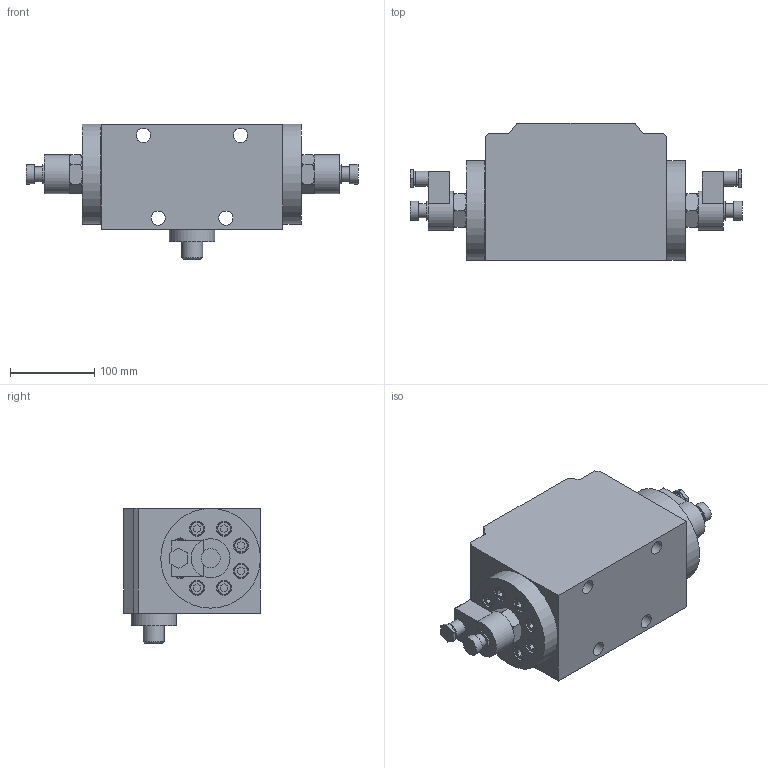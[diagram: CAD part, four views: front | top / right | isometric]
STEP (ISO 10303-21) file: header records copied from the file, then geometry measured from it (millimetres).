
FILE_DESCRIPTION(/* description */ (''),/* implementation_level */ '2;1');
FILE_NAME(/* name */ '数字4.prt.stp',/* time_stamp */ '2023-05-05T14:01:25+08:00',/* author */ (''),/* organization */ (''),/* preprocessor_version */ 'ST-DEVELOPER v16.7',/* originating_system */ 'SIEMENS PLM Software NX 12.0',/* authorisation */ '');
FILE_SCHEMA (('AUTOMOTIVE_DESIGN { 1 0 10303 214 3 1 1 1 }'));
Length unit declared in the file: millimetre
Products named in the file (1): 数字4
Bounding box: 393.03 x 162 x 160 mm (x, y, z)
Volume: 4840712.8 mm3; surface area: 407223 mm2
Topology: 51 solids, 51 shells, 797 faces, 1897 edges, 1253 vertices
Faces by surface type: plane 471, cylinder 202, torus 72, cone 52
Full cylindrical faces by diameter (mm): 4.2 x8, 5 x8, 5.5 x8, 8.5 x24, 9.5 x8, 10 x16, 11 x16, 16 x18, 16.666 x2, 17 x4, 18 x22, 20 x1, 22.666 x4, 25 x3, 28 x1, 46.188 x2, 53.414 x1, 118 x2
Entity records: 21959 total; most frequent: CARTESIAN_POINT 4351, DIRECTION 3574, ORIENTED_EDGE 3058, EDGE_CURVE 1529, AXIS2_PLACEMENT_3D 1343, EDGE_LOOP 1200, VERTEX_POINT 1160, LINE 888
